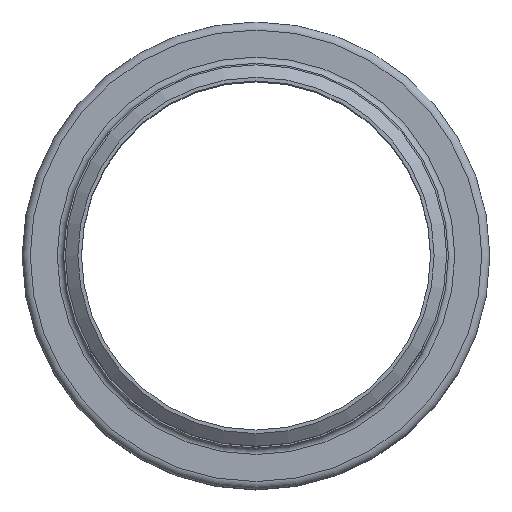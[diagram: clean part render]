
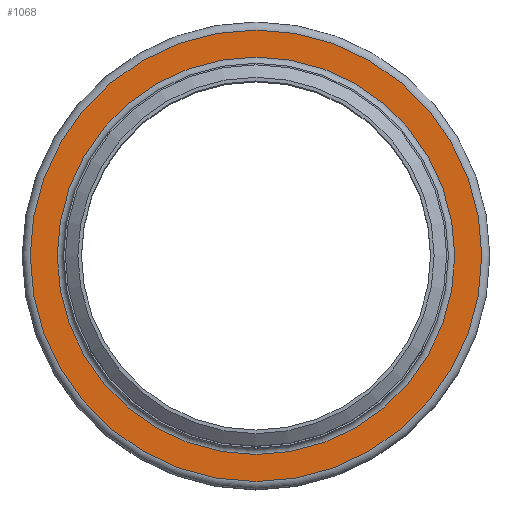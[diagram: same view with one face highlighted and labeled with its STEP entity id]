
A CAD part, top view. The second image highlights one B-rep face of the part: STEP entity #1068.
In plain terms, the highlighted planar face has unit normal (0, 0, 1).
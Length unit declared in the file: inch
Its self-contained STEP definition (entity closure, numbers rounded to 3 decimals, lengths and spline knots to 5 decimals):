
#102=FACE_BOUND('',#282,.T.);
#171=FACE_OUTER_BOUND('',#281,.T.);
#281=EDGE_LOOP('',(#824));
#282=EDGE_LOOP('',(#825));
#402=CIRCLE('',#1264,3.4525);
#403=CIRCLE('',#1266,3.9225);
#491=VERTEX_POINT('',#1935);
#492=VERTEX_POINT('',#1939);
#606=EDGE_CURVE('',#491,#491,#402,.T.);
#607=EDGE_CURVE('',#492,#492,#403,.T.);
#824=ORIENTED_EDGE('',*,*,#607,.F.);
#825=ORIENTED_EDGE('',*,*,#606,.T.);
#918=PLANE('',#1265);
#1068=ADVANCED_FACE('',(#171,#102),#918,.T.);
#1264=AXIS2_PLACEMENT_3D('',#1937,#1621,#1622);
#1265=AXIS2_PLACEMENT_3D('',#1938,#1623,#1624);
#1266=AXIS2_PLACEMENT_3D('',#1940,#1625,#1626);
#1621=DIRECTION('center_axis',(0.,0.,
-1.));
#1622=DIRECTION('ref_axis',(1.,0.,0.));
#1623=DIRECTION('center_axis',(0.,0.,
1.));
#1624=DIRECTION('ref_axis',(1.,0.,0.));
#1625=DIRECTION('center_axis',(0.,0.,
-1.));
#1626=DIRECTION('ref_axis',(1.,0.,0.));
#1935=CARTESIAN_POINT('',(3.4525,0.,-1.61));
#1937=CARTESIAN_POINT('Origin',(0.,0.,
-1.61));
#1938=CARTESIAN_POINT('Origin',(0.,3.9225,-1.61));
#1939=CARTESIAN_POINT('',(3.9225,0.,-1.61));
#1940=CARTESIAN_POINT('Origin',(0.,0.,
-1.61));
